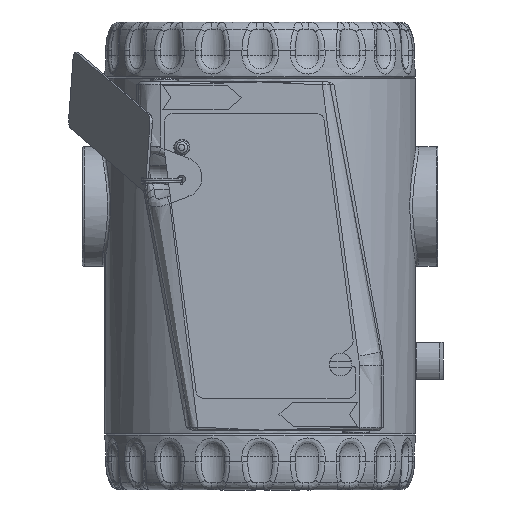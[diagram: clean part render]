
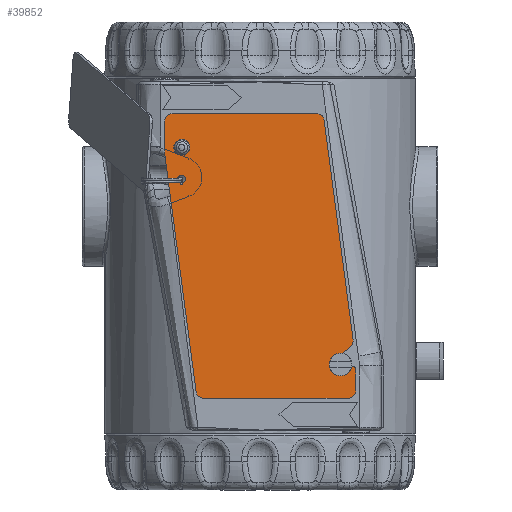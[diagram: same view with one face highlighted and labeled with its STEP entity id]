
A CAD part, left-side view. The second image highlights one B-rep face of the part: STEP entity #39852.
In plain terms, the highlighted planar face has unit normal (-1, 0, 0) as drawn and (0, 0, 1) by its records, which use the part's own axes.
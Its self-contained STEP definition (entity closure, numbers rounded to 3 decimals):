
#1167=PLANE('',#44294);
#1833=FACE_BOUND('',#10301,.T.);
#1834=FACE_BOUND('',#10302,.T.);
#3229=LINE('',#83051,#4961);
#3233=LINE('',#83063,#4965);
#3237=LINE('',#83075,#4969);
#3241=LINE('',#83087,#4973);
#3245=LINE('',#83099,#4977);
#3248=LINE('',#83105,#4980);
#3252=LINE('',#83117,#4984);
#3256=LINE('',#83128,#4988);
#4961=VECTOR('',#53351,10.);
#4965=VECTOR('',#53363,10.);
#4969=VECTOR('',#53375,10.);
#4973=VECTOR('',#53387,10.);
#4977=VECTOR('',#53399,10.);
#4980=VECTOR('',#53404,10.);
#4984=VECTOR('',#53416,10.);
#4988=VECTOR('',#53428,10.);
#7707=FACE_OUTER_BOUND('',#10300,.T.);
#10300=EDGE_LOOP('',(#32916,#32917,#32918,#32919,#32920,#32921,#32922,#32923,
#32924,#32925,#32926,#32927,#32928,#32929,#32930));
#10301=EDGE_LOOP('',(#32931));
#10302=EDGE_LOOP('',(#32932));
#12972=CIRCLE('',#44260,1.35);
#12974=CIRCLE('',#44263,1.);
#12975=CIRCLE('',#44265,2.);
#12977=CIRCLE('',#44269,2.);
#12979=CIRCLE('',#44273,1.);
#12981=CIRCLE('',#44277,2.);
#12983=CIRCLE('',#44281,2.);
#12985=CIRCLE('',#44286,2.);
#12987=CIRCLE('',#44290,2.);
#17764=VERTEX_POINT('',#83031);
#17766=VERTEX_POINT('',#83037);
#17767=VERTEX_POINT('',#83041);
#17768=VERTEX_POINT('',#83042);
#17771=VERTEX_POINT('',#83050);
#17773=VERTEX_POINT('',#83056);
#17775=VERTEX_POINT('',#83062);
#17777=VERTEX_POINT('',#83068);
#17779=VERTEX_POINT('',#83074);
#17781=VERTEX_POINT('',#83080);
#17783=VERTEX_POINT('',#83086);
#17785=VERTEX_POINT('',#83092);
#17787=VERTEX_POINT('',#83098);
#17789=VERTEX_POINT('',#83104);
#17791=VERTEX_POINT('',#83110);
#17793=VERTEX_POINT('',#83116);
#17795=VERTEX_POINT('',#83122);
#22956=EDGE_CURVE('',#17764,#17764,#12972,.T.);
#22959=EDGE_CURVE('',#17766,#17766,#12974,.T.);
#22960=EDGE_CURVE('',#17767,#17768,#12975,.T.);
#22964=EDGE_CURVE('',#17768,#17771,#3229,.T.);
#22967=EDGE_CURVE('',#17771,#17773,#12977,.T.);
#22970=EDGE_CURVE('',#17773,#17775,#3233,.T.);
#22973=EDGE_CURVE('',#17775,#17777,#12979,.T.);
#22976=EDGE_CURVE('',#17777,#17779,#3237,.T.);
#22979=EDGE_CURVE('',#17779,#17781,#12981,.T.);
#22982=EDGE_CURVE('',#17781,#17783,#3241,.T.);
#22985=EDGE_CURVE('',#17783,#17785,#12983,.T.);
#22988=EDGE_CURVE('',#17785,#17787,#3245,.T.);
#22991=EDGE_CURVE('',#17787,#17789,#3248,.T.);
#22994=EDGE_CURVE('',#17789,#17791,#12985,.T.);
#22997=EDGE_CURVE('',#17791,#17793,#3252,.T.);
#23000=EDGE_CURVE('',#17793,#17795,#12987,.T.);
#23003=EDGE_CURVE('',#17795,#17767,#3256,.T.);
#32916=ORIENTED_EDGE('',*,*,#22960,.F.);
#32917=ORIENTED_EDGE('',*,*,#23003,.F.);
#32918=ORIENTED_EDGE('',*,*,#23000,.F.);
#32919=ORIENTED_EDGE('',*,*,#22997,.F.);
#32920=ORIENTED_EDGE('',*,*,#22994,.F.);
#32921=ORIENTED_EDGE('',*,*,#22991,.F.);
#32922=ORIENTED_EDGE('',*,*,#22988,.F.);
#32923=ORIENTED_EDGE('',*,*,#22985,.F.);
#32924=ORIENTED_EDGE('',*,*,#22982,.F.);
#32925=ORIENTED_EDGE('',*,*,#22979,.F.);
#32926=ORIENTED_EDGE('',*,*,#22976,.F.);
#32927=ORIENTED_EDGE('',*,*,#22973,.F.);
#32928=ORIENTED_EDGE('',*,*,#22970,.F.);
#32929=ORIENTED_EDGE('',*,*,#22967,.F.);
#32930=ORIENTED_EDGE('',*,*,#22964,.F.);
#32931=ORIENTED_EDGE('',*,*,#22956,.T.);
#32932=ORIENTED_EDGE('',*,*,#22959,.T.);
#39852=ADVANCED_FACE('',(#7707,#1833,#1834),#1167,.T.);
#44260=AXIS2_PLACEMENT_3D('',#83033,#53332,#53333);
#44263=AXIS2_PLACEMENT_3D('',#83039,#53339,#53340);
#44265=AXIS2_PLACEMENT_3D('',#83043,#53343,#53344);
#44269=AXIS2_PLACEMENT_3D('',#83057,#53356,#53357);
#44273=AXIS2_PLACEMENT_3D('',#83069,#53368,#53369);
#44277=AXIS2_PLACEMENT_3D('',#83081,#53380,#53381);
#44281=AXIS2_PLACEMENT_3D('',#83093,#53392,#53393);
#44286=AXIS2_PLACEMENT_3D('',#83111,#53409,#53410);
#44290=AXIS2_PLACEMENT_3D('',#83123,#53421,#53422);
#44294=AXIS2_PLACEMENT_3D('',#83131,#53432,#53433);
#53332=DIRECTION('center_axis',(0.,0.,-1.));
#53333=DIRECTION('ref_axis',(-1.,0.,0.));
#53339=DIRECTION('center_axis',(0.,0.,-1.));
#53340=DIRECTION('ref_axis',(-1.,0.,0.));
#53343=DIRECTION('center_axis',(0.,0.,-1.));
#53344=DIRECTION('ref_axis',(0.766,0.643,0.));
#53351=DIRECTION('',(0.643,-0.766,0.));
#53356=DIRECTION('center_axis',(0.,0.,1.));
#53357=DIRECTION('ref_axis',(0.766,0.643,0.));
#53363=DIRECTION('',(-0.643,0.766,0.));
#53368=DIRECTION('center_axis',(0.,0.,-1.));
#53369=DIRECTION('ref_axis',(0.,1.,0.));
#53375=DIRECTION('',(1.,0.,0.));
#53380=DIRECTION('center_axis',(0.,0.,-1.));
#53381=DIRECTION('ref_axis',(1.,0.,0.));
#53387=DIRECTION('',(0.,-1.,0.));
#53392=DIRECTION('center_axis',(0.,0.,-1.));
#53393=DIRECTION('ref_axis',(0.131,-0.991,0.));
#53399=DIRECTION('',(-0.991,-0.131,0.));
#53404=DIRECTION('',(-1.,0.,0.));
#53409=DIRECTION('center_axis',(0.,0.,-1.));
#53410=DIRECTION('ref_axis',(-1.,0.,0.));
#53416=DIRECTION('',(0.,1.,0.));
#53421=DIRECTION('center_axis',(0.,0.,-1.));
#53422=DIRECTION('ref_axis',(-0.131,0.991,0.));
#53428=DIRECTION('',(0.991,0.131,0.));
#53432=DIRECTION('center_axis',(0.,0.,1.));
#53433=DIRECTION('ref_axis',(1.,0.,0.));
#83031=CARTESIAN_POINT('',(10.35,4.599,0.7));
#83033=CARTESIAN_POINT('Origin',(9.,4.599,0.7));
#83037=CARTESIAN_POINT('',(18.4,4.599,0.7));
#83039=CARTESIAN_POINT('Origin',(17.4,4.599,0.7));
#83041=CARTESIAN_POINT('',(60.389,50.327,0.7));
#83042=CARTESIAN_POINT('',(62.182,49.63,0.7));
#83043=CARTESIAN_POINT('Origin',(60.65,48.344,0.7));
#83050=CARTESIAN_POINT('',(65.468,45.714,0.7));
#83051=CARTESIAN_POINT('',(65.468,45.714,0.7));
#83056=CARTESIAN_POINT('',(68.532,48.286,0.7));
#83057=CARTESIAN_POINT('Origin',(67.,47.,0.7));
#83062=CARTESIAN_POINT('',(67.633,49.357,0.7));
#83063=CARTESIAN_POINT('',(67.633,49.357,0.7));
#83068=CARTESIAN_POINT('',(68.399,51.,0.7));
#83069=CARTESIAN_POINT('Origin',(68.399,50.,0.7));
#83074=CARTESIAN_POINT('',(74.,51.,0.7));
#83075=CARTESIAN_POINT('',(74.,51.,0.7));
#83080=CARTESIAN_POINT('',(76.,49.,0.7));
#83081=CARTESIAN_POINT('Origin',(74.,49.,0.7));
#83086=CARTESIAN_POINT('',(76.,10.377,0.7));
#83087=CARTESIAN_POINT('',(76.,10.377,0.7));
#83092=CARTESIAN_POINT('',(74.261,8.394,0.7));
#83093=CARTESIAN_POINT('Origin',(74.,10.377,0.7));
#83098=CARTESIAN_POINT('',(10.5,0.,0.7));
#83099=CARTESIAN_POINT('',(10.5,0.,0.7));
#83104=CARTESIAN_POINT('',(2.,0.,0.7));
#83105=CARTESIAN_POINT('',(2.,0.,0.7));
#83110=CARTESIAN_POINT('',(0.,2.,0.7));
#83111=CARTESIAN_POINT('Origin',(2.,2.,0.7));
#83116=CARTESIAN_POINT('',(0.,40.623,0.7));
#83117=CARTESIAN_POINT('',(0.,40.623,0.7));
#83122=CARTESIAN_POINT('',(1.739,42.606,0.7));
#83123=CARTESIAN_POINT('Origin',(2.,40.623,0.7));
#83128=CARTESIAN_POINT('',(60.389,50.327,0.7));
#83131=CARTESIAN_POINT('Origin',(39.077,26.228,0.7));
